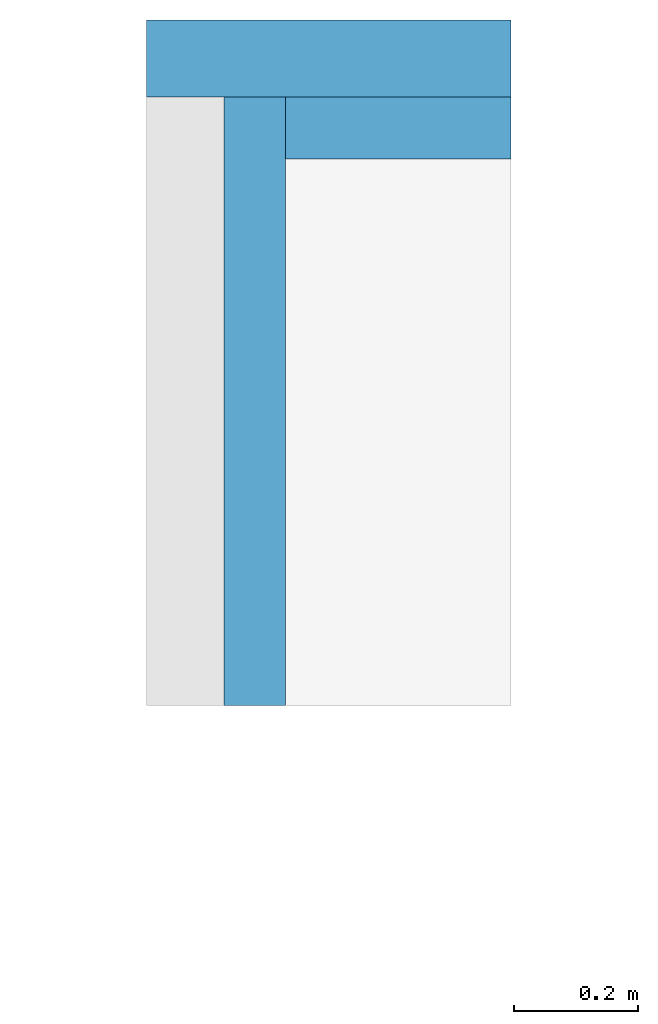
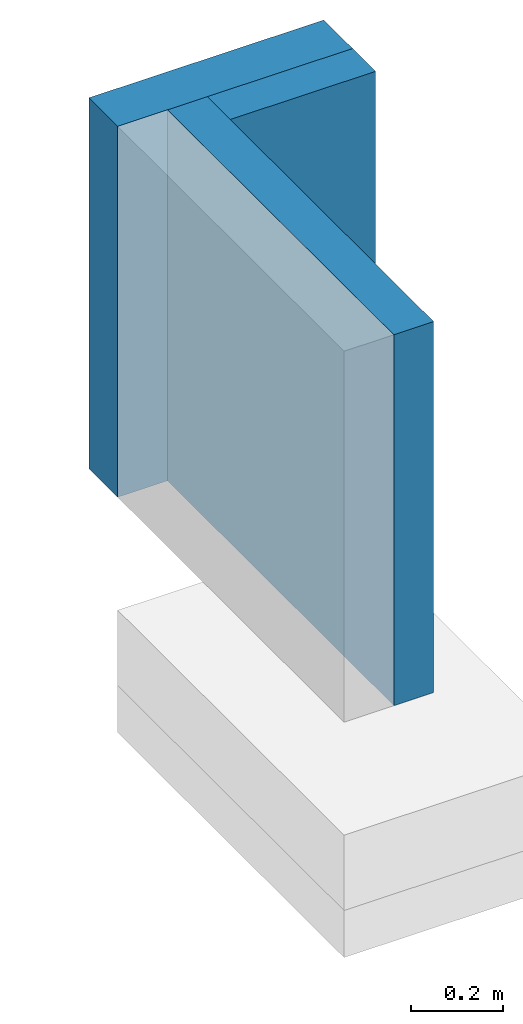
# One storey, part 2 of 2: 3 walls.
"""IFC2X3 building model written with IfcOpenShell, lengths in millimetres."""

from ifc_helpers import new_model, entity, si_unit, converted_unit, derived_unit, direction, frame, frame_2d, origin, place, context, subcontext, project, spatial, rectangle, extrude, material, layer, layer_set, layer_usage, type_object, element, save


model = new_model("IFC2X3")

# Units and contexts
model_context = context("Model", 3, precision=0.01, world=origin(), true_north=direction((6.12303176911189e-17, 1.0)))
context_of_model = context(None, 3, precision=0.01, world=origin(), true_north=direction((6.12303176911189e-17, 1.0)))
body_context = subcontext(model_context, "Body", "Model", "MODEL_VIEW")
ifc_project = project(units=[si_unit("LENGTHUNIT", "METRE", prefix="MILLI"), si_unit("AREAUNIT", "SQUARE_METRE"), si_unit("VOLUMEUNIT", "CUBIC_METRE"), converted_unit("PLANEANGLEUNIT", "DEGREE", entity("IfcRatioMeasure", 0.0174532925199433), si_unit("PLANEANGLEUNIT", "RADIAN"), dimensions=[0, 0, 0, 0, 0, 0, 0]), si_unit("MASSUNIT", "GRAM", prefix="KILO"), derived_unit("MASSDENSITYUNIT", [(si_unit("MASSUNIT", "GRAM", prefix="KILO"), 1), (si_unit("LENGTHUNIT", "METRE"), -3)]), derived_unit("MOMENTOFINERTIAUNIT", [(si_unit("LENGTHUNIT", "METRE"), 4)]), si_unit("TIMEUNIT", "SECOND"), si_unit("FREQUENCYUNIT", "HERTZ"), si_unit("THERMODYNAMICTEMPERATUREUNIT", "DEGREE_CELSIUS"), derived_unit("THERMALTRANSMITTANCEUNIT", [(si_unit("MASSUNIT", "GRAM", prefix="KILO"), 1), (si_unit("THERMODYNAMICTEMPERATUREUNIT", "KELVIN"), -1), (si_unit("TIMEUNIT", "SECOND"), -3)]), derived_unit("VOLUMETRICFLOWRATEUNIT", [(si_unit("LENGTHUNIT", "METRE"), 3), (si_unit("TIMEUNIT", "SECOND"), -1)]), si_unit("ELECTRICCURRENTUNIT", "AMPERE"), si_unit("ELECTRICVOLTAGEUNIT", "VOLT"), si_unit("POWERUNIT", "WATT"), si_unit("FORCEUNIT", "NEWTON", prefix="KILO"), si_unit("ILLUMINANCEUNIT", "LUX"), si_unit("LUMINOUSFLUXUNIT", "LUMEN"), si_unit("LUMINOUSINTENSITYUNIT", "CANDELA"), derived_unit("USERDEFINED", [(si_unit("MASSUNIT", "GRAM", prefix="KILO"), -1), (si_unit("LENGTHUNIT", "METRE"), -2), (si_unit("TIMEUNIT", "SECOND"), 3), (si_unit("LUMINOUSFLUXUNIT", "LUMEN"), 1)]), derived_unit("LINEARVELOCITYUNIT", [(si_unit("LENGTHUNIT", "METRE"), 1), (si_unit("TIMEUNIT", "SECOND"), -1)]), si_unit("PRESSUREUNIT", "PASCAL"), derived_unit("USERDEFINED", [(si_unit("LENGTHUNIT", "METRE"), -2), (si_unit("MASSUNIT", "GRAM", prefix="KILO"), 1), (si_unit("TIMEUNIT", "SECOND"), -2)]), derived_unit("LINEARFORCEUNIT", [(si_unit("MASSUNIT", "GRAM", prefix="KILO"), 1), (si_unit("LENGTHUNIT", "METRE"), 1), (si_unit("TIMEUNIT", "SECOND"), -2), (si_unit("LENGTHUNIT", "METRE"), -1)]), derived_unit("PLANARFORCEUNIT", [(si_unit("MASSUNIT", "GRAM", prefix="KILO"), 1), (si_unit("LENGTHUNIT", "METRE"), 1), (si_unit("TIMEUNIT", "SECOND"), -2), (si_unit("LENGTHUNIT", "METRE"), -2)])], contexts=[model_context, context_of_model])

# Site, building, storey
site_placement = place(None, origin())
site = spatial("IfcSite", under=ifc_project, at=site_placement, Name="Default", CompositionType="ELEMENT")
building_placement = place(site_placement, origin())
building = spatial("IfcBuilding", under=site, at=building_placement, CompositionType="ELEMENT")
storey_placement = place(building_placement, origin())
storey = spatial("IfcBuildingStorey", under=building, at=storey_placement, Name="00 begane grond", CompositionType="ELEMENT", Elevation=-2.77069864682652e-11)

# Walls
ifc_material_1 = material(Name="Heraklith® I Heratekta - EPS60-SE")
ifc_layer_1 = layer(ifc_material_1, 115.0)
ifc_material_2 = material(Name="Heraklith® | Heratekta - Houtwollaag - 985x590mm")
ifc_layer_2 = layer(ifc_material_2, 10.0)
ifc_layer_set_1 = layer_set([ifc_layer_1, ifc_layer_2], Name="Basic Wall:NLRS_41_WA_Heraklith Heratekta+ 125x985x590mm")
ifc_layer_usage_1 = layer_usage(ifc_layer_set_1, "AXIS2", "NEGATIVE", 62.5)
wall_type_1 = type_object("IfcWallType", Name="Basic Wall:NLRS_41_WA_Heraklith Heratekta+ 125x985x590mm", PredefinedType="STANDARD", material=ifc_layer_set_1)
wall_1_placement = place(storey_placement, frame((13317.9220613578, 13775.4220613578, 0.0), z_axis=(0.0, 0.0, 1.0), x_axis=(-1.0, 0.0, 0.0)))
element("IfcWallStandardCase", 1, at=wall_1_placement, inside=storey, type_object=wall_type_1, material=ifc_layer_usage_1, Name="Basic Wall:NLRS_41_WA_Heraklith Heratekta+ 125x985x590mm", ObjectType="Basic Wall:NLRS_41_WA_Heraklith Heratekta+ 125x985x590mm", context=body_context, shape_type="SweptSolid", body=[
    extrude(rectangle(XDim=590.000000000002, YDim=125.000000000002, at=frame_2d((295.000000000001, -8.5265128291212e-14), x_axis=(-1.0, 0.0))), origin(), (0.0, 0.0, 1.0), 985.000000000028),
])
ifc_material_3 = material(Name="Concrete, Precast Panels")
ifc_layer_3 = layer(ifc_material_3, 100.0)
ifc_layer_set_2 = layer_set([ifc_layer_3], Name="Basic Wall:Generic_100mm")
ifc_layer_usage_2 = layer_usage(ifc_layer_set_2, "AXIS2", "NEGATIVE", 50.0)
wall_type_2 = type_object("IfcWallType", Name="Basic Wall:Generic_100mm", PredefinedType="STANDARD", material=ifc_layer_set_2)
wall_2_placement = place(storey_placement, frame((12902.9220613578, 12727.9220613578, 0.0), z_axis=(0.0, 0.0, 1.0), x_axis=(0.0, 1.0, 0.0)))
element("IfcWallStandardCase", 2, at=wall_2_placement, inside=storey, type_object=wall_type_2, material=ifc_layer_usage_2, Name="Basic Wall:Generic_100mm", ObjectType="Basic Wall:Generic_100mm", context=body_context, shape_type="SweptSolid", body=[
    extrude(rectangle(XDim=985.000000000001, YDim=99.9999999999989, at=frame_2d((492.500000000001, 8.88178419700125e-14), x_axis=(-1.0, 0.0))), origin(), (0.0, 0.0, 1.0), 985.000000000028),
])
ifc_layer_usage_3 = layer_usage(ifc_layer_set_2, "AXIS2", "POSITIVE", -50.0)
wall_3_placement = place(storey_placement, frame((13317.9220613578, 13662.9220613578, 0.0), z_axis=(0.0, 0.0, 1.0), x_axis=(-1.0, 0.0, 0.0)))
element("IfcWallStandardCase", 3, at=wall_3_placement, inside=storey, type_object=wall_type_2, material=ifc_layer_usage_3, Name="Basic Wall:Generic_100mm", ObjectType="Basic Wall:Generic_100mm", context=body_context, shape_type="SweptSolid", body=[
    extrude(rectangle(XDim=365.000000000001, YDim=99.9999999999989, at=frame_2d((182.500000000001, 0.0), x_axis=(-1.0, 0.0))), origin(), (0.0, 0.0, 1.0), 985.000000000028),
])

save(model, "model.ifc")
